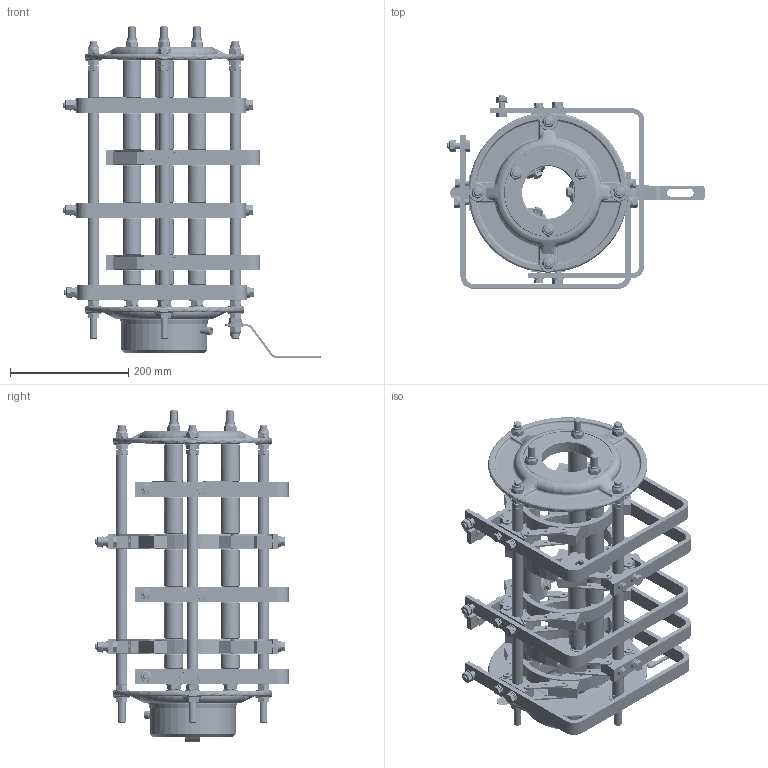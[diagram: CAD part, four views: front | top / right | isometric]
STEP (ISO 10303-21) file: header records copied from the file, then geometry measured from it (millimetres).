
FILE_DESCRIPTION(/* description */ (''),/* implementation_level */ '2;1');
FILE_NAME(/* name */ 'K:\MANDARIC\68934.stp',/* time_stamp */ '2017-12-01T09:38:33+01:00',/* author */ ('milman01'),/* organization */ ('Hillmar Industries Ltd.'),/* preprocessor_version */ 'ST-DEVELOPER v16.1',/* originating_system */ 'Autodesk Inventor 2016',/* authorisation */ '');
FILE_SCHEMA (('AUTOMOTIVE_DESIGN { 1 0 10303 214 3 1 1 }'));
Products named in the file (1): 68934 PSR-BRV1-01KV-5B-DB600A
Bounding box: 435.3 x 326.9 x 562.13 mm (x, y, z)
Volume: 5252118 mm3; surface area: 1385643.9 mm2
Topology: 1 solids, 35 shells, 3265 faces, 7915 edges, 4874 vertices
Faces by surface type: plane 1572, cylinder 732, cone 710, bspline 130, torus 121
Full cylindrical faces by diameter (mm): 5 x80, 6.647 x2, 7.323 x10, 8 x16, 8.4 x10, 9.5 x10, 9.525 x12, 10 x25, 10.106 x10, 10.5 x15, 10.592 x3, 11 x15, 11.4 x10, 12.7 x42, 12.859 x5, 13.487 x16, 14.2 x1, 14.224 x5, 14.275 x2, 16 x10, 16.192 x8, 17.5 x1, 19.05 x4, 19.304 x15, 19.431 x15, 20 x15, 25.4 x20, 31.75 x15, 88.9 x1, 95.25 x1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
Entity records: 99270 total; most frequent: CARTESIAN_POINT 26292, DIRECTION 14229, ORIENTED_EDGE 13894, EDGE_CURVE 6947, AXIS2_PLACEMENT_3D 5840, VERTEX_POINT 4602, EDGE_LOOP 4541, STYLED_ITEM 3266
